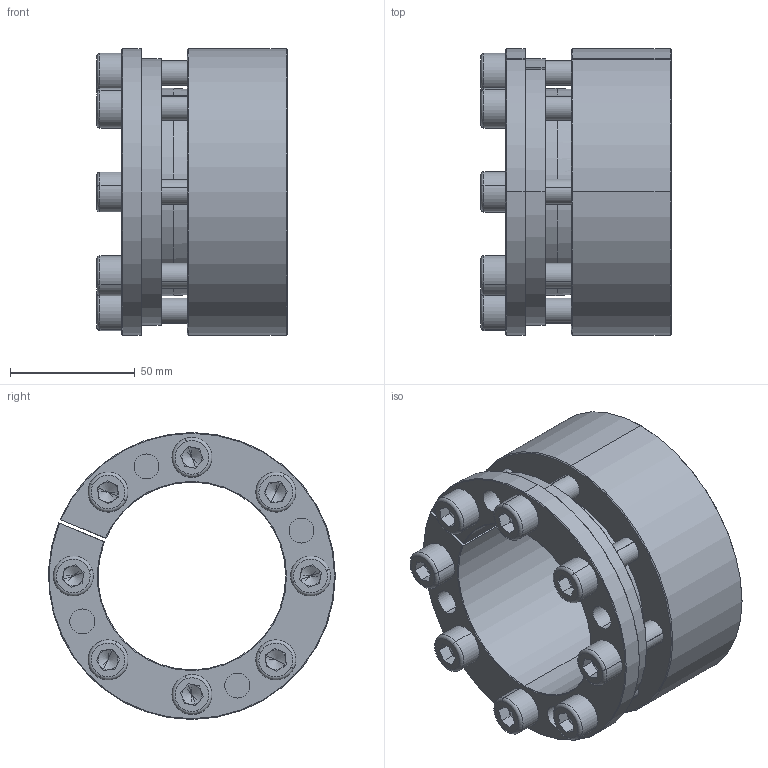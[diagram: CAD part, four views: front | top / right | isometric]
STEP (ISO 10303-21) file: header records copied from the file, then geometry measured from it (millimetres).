
FILE_DESCRIPTION (( 'STEP AP214' ), '1' );
FILE_NAME ('PL-H2 75-115.STEP', '2022-07-25T02:16:35', ( '' ), ( '' ), 'SwSTEP 2.0', 'SolidWorks 2022', '' );
FILE_SCHEMA (( 'AUTOMOTIVE_DESIGN' ));
Length unit declared in the file: millimetre
Products named in the file (5): PL-H2 75-115; 錨璃7^PL-H2 蚾饜芞; hexagon socket head cap screws gb_M10×40-12.9; PL-H2-内环（设计图）_PL-H2-75-110; PL-H2-外环（设计图）_PL-H2-75-110
Assembly tree (11 placements, depth 2):
  PL-H2 75-115
    PL-H2-内环（设计图）_PL-H2-75-110
    PL-H2-外环（设计图）_PL-H2-75-110
    hexagon socket head cap screws gb_M10×40-12.9  x8
    錨璃7^PL-H2 蚾饜芞
Bounding box: 76.19 x 114.79 x 114.88 mm (x, y, z)
Volume: 649006.5 mm3; surface area: 193699.1 mm2
Topology: 11 solids, 11 shells, 600 faces, 1450 edges, 888 vertices
Faces by surface type: plane 258, cylinder 174, cone 136, torus 32
Entity records: 13046 total; most frequent: DIRECTION 2382, CARTESIAN_POINT 2280, ORIENTED_EDGE 2080, EDGE_CURVE 1040, AXIS2_PLACEMENT_3D 951, VERTEX_POINT 657, EDGE_LOOP 523, CIRCLE 512
